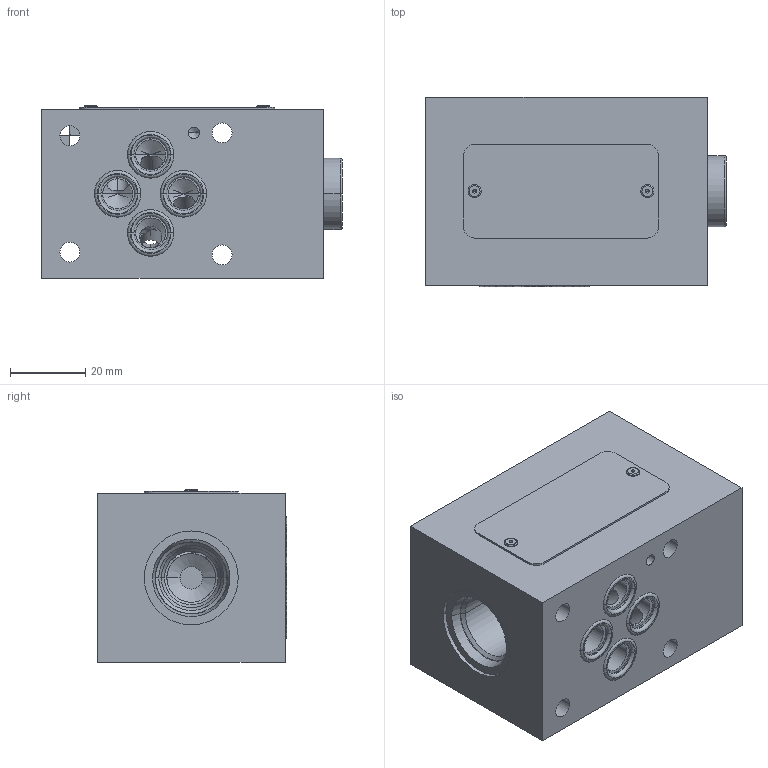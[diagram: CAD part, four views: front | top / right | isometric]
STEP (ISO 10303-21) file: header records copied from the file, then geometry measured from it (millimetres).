
FILE_DESCRIPTION((''),'2;1');
FILE_NAME('28063800_ASM','2023-10-12T',('l.soukupova'),(''),'PRO/ENGINEER BY PARAMETRIC TECHNOLOGY CORPORATION, 2015440','PRO/ENGINEER BY PARAMETRIC TECHNOLOGY CORPORATION, 2015440','');
FILE_SCHEMA(('AUTOMOTIVE_DESIGN { 1 0 10303 214 1 1 1 1 }'));
Length unit declared in the file: millimetre
Products named in the file (9): 27883801; RD_LABEL_25X52_159703; AF_1932_16485; VSTI_1_4_EDV; ORAR00012_201524_AF24; ORAR00012_201524_AF25; ORAR00012_201524_AF26; ORAR00012_201524_AF27; 28063800_ASM
Assembly tree (9 placements, depth 2):
  28063800_ASM
    27883801
    RD_LABEL_25X52_159703
    AF_1932_16485  x2
    VSTI_1_4_EDV
    ORAR00012_201524_AF24
    ORAR00012_201524_AF25
    ORAR00012_201524_AF26
    ORAR00012_201524_AF27
Bounding box: 80 x 50.38 x 46 mm (x, y, z)
Volume: 147024.3 mm3; surface area: 36209.6 mm2
Topology: 9 solids, 14 shells, 272 faces, 789 edges, 618 vertices
Faces by surface type: cylinder 125, cone 53, plane 52, torus 42
Entity records: 14543 total; most frequent: CARTESIAN_POINT 3112, DIRECTION 1657, ORIENTED_EDGE 1190, PRESENTATION_STYLE_ASSIGNMENT 930, STYLED_ITEM 815, CURVE_STYLE 803, AXIS2_PLACEMENT_3D 673, EDGE_CURVE 605
